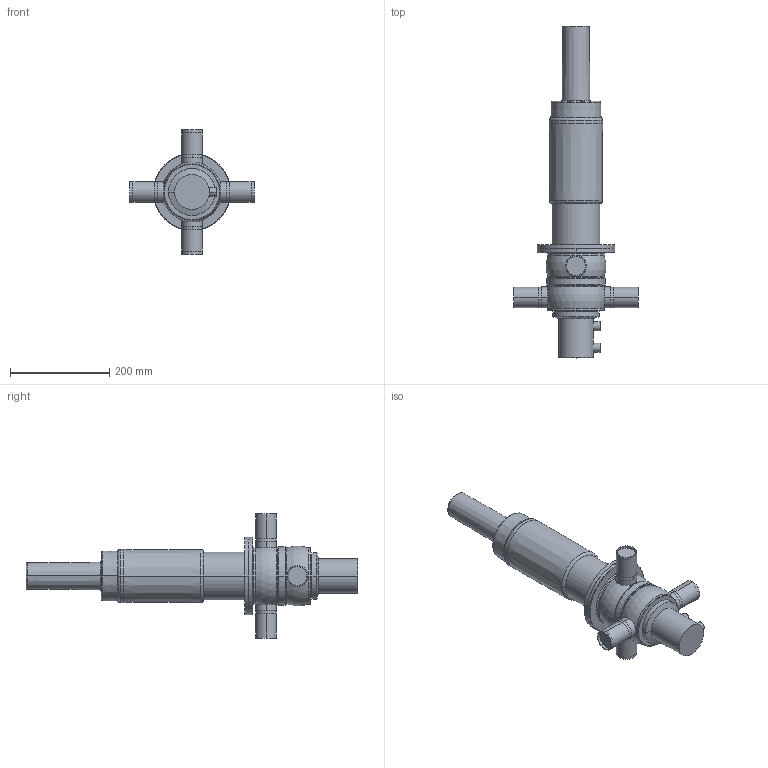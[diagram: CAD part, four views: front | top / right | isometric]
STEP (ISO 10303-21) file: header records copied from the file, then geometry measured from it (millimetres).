
FILE_DESCRIPTION(('Creo Elements/Direct Modeling STEP Export'),'2;1');
FILE_NAME('D44-40_prox..stp','2019-09-03T15:45:51',(''),(''),'PTC Creo Elements/Direct Modeling STEP processor for AP214 (Solid Model)','PTC Creo Elements/Direct Modeling 19.0B 21-Mar-2015 (C) Parametric Technology GmbH','');
FILE_SCHEMA(('AUTOMOTIVE_DESIGN { 1 0 10303 214 1 1 1 1 }'));
Length unit declared in the file: millimetre
Products named in the file (5): D4_Prox._holder.; actuator_D4-100_yoke; drain_pipe-62; Housing_D44-40; D44-40_prox.
Assembly tree (4 placements, depth 2):
  D44-40_prox.
    Housing_D44-40
    drain_pipe-62
    actuator_D4-100_yoke
    D4_Prox._holder.
Bounding box: 250 x 667.35 x 250 mm (x, y, z)
Volume: 5129496.9 mm3; surface area: 345141.8 mm2
Topology: 4 solids, 4 shells, 142 faces, 309 edges, 187 vertices
Faces by surface type: cylinder 58, torus 32, plane 26, cone 22, sphere 4
Entity records: 4454 total; most frequent: CARTESIAN_POINT 1479, ORIENTED_EDGE 618, DIRECTION 598, EDGE_CURVE 309, AXIS2_PLACEMENT_3D 259, VERTEX_POINT 187, EDGE_LOOP 154, FACE_OUTER_BOUND 142
